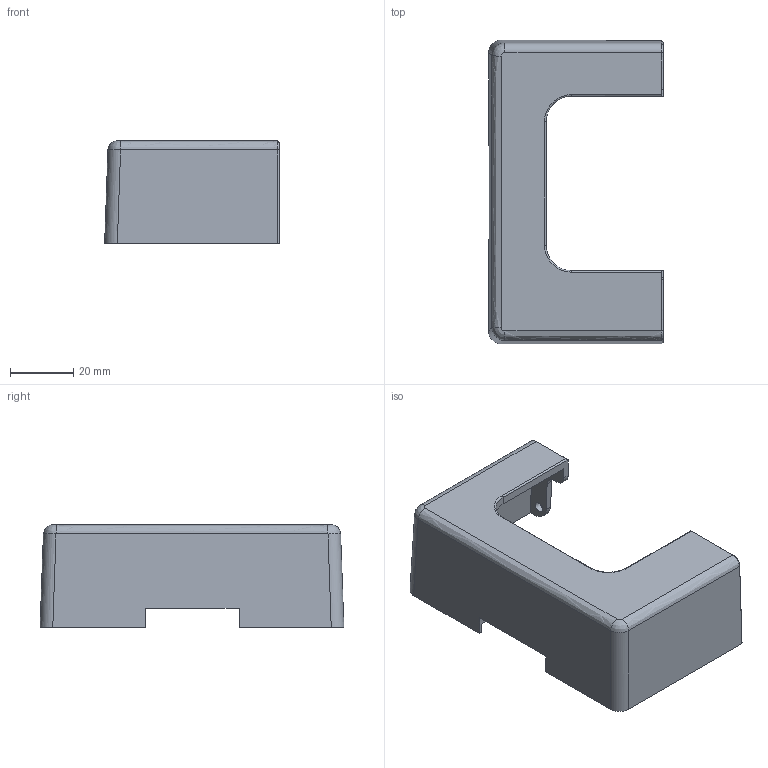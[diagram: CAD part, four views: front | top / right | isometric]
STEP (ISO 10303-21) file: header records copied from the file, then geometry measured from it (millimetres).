
FILE_DESCRIPTION(('FreeCAD Model'),'2;1');
FILE_NAME('Open CASCADE Shape Model','2023-09-06T18:20:19',(''),(''), 'Open CASCADE STEP processor 7.6','FreeCAD','Unknown');
FILE_SCHEMA(('AUTOMOTIVE_DESIGN { 1 0 10303 214 1 1 1 1 }'));
Length unit declared in the file: millimetre
Products named in the file (1): Upper_Left_Sol
Bounding box: 55.13 x 95.86 x 32.3 mm (x, y, z)
Volume: 24511.1 mm3; surface area: 18643.3 mm2
Topology: 1 solids, 1 shells, 76 faces, 209 edges, 133 vertices
Faces by surface type: plane 29, bspline 22, cylinder 17, extrusion 4, torus 2, revolution 2
Full cylindrical faces by diameter (mm): 3.2 x4
Entity records: 9138 total; most frequent: CARTESIAN_POINT 5435, DIRECTION 540, ORIENTED_EDGE 414, PCURVE 414, DEFINITIONAL_REPRESENTATION 414, VECTOR 326, LINE 322, EDGE_CURVE 207
